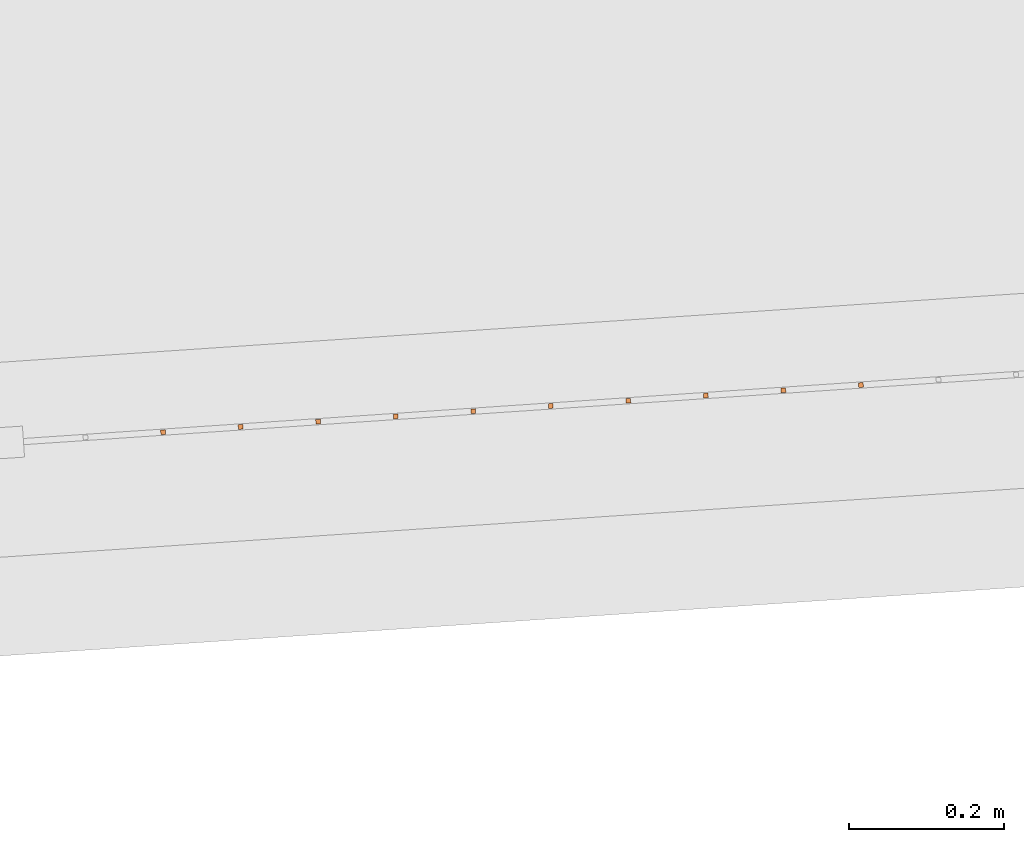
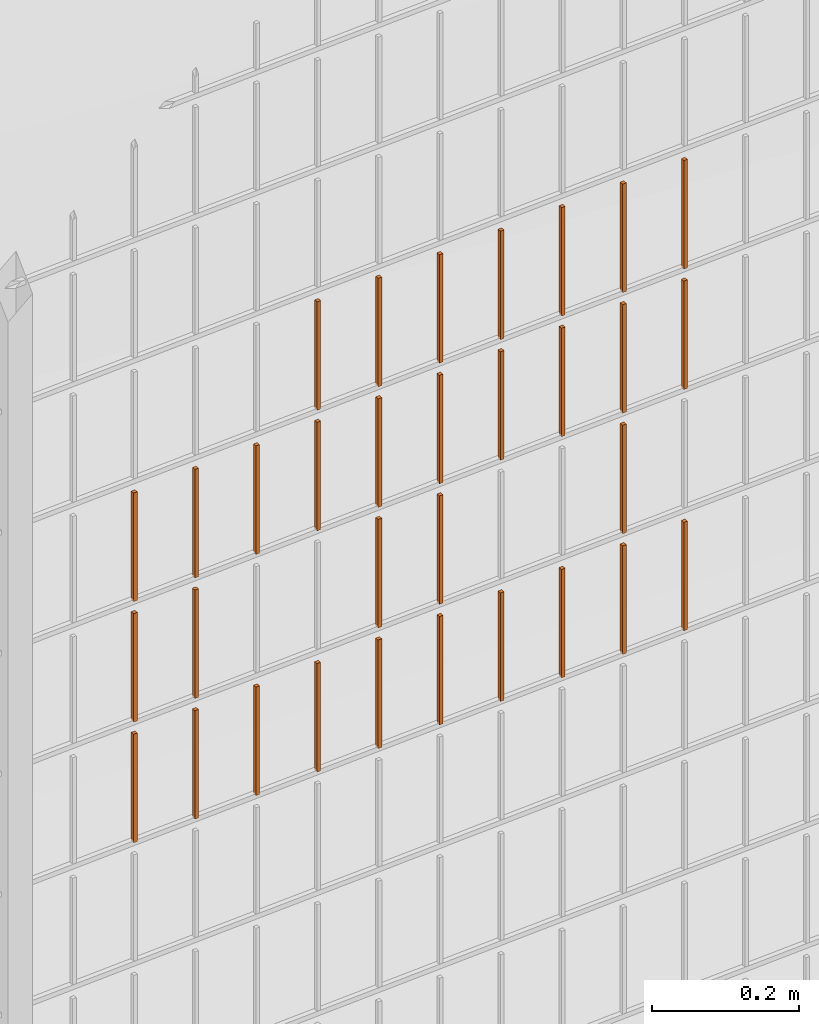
# One storey, part 367 of 1809: 32 proxies, 1 element without a shape of its own.
"""IFC2X3 building model written with IfcOpenShell, lengths in millimetres."""

from ifc_helpers import new_model, entity, si_unit, converted_unit, derived_unit, money_unit, direction, frame, origin_with_axes, place, context, subcontext, project, spatial, faceted_brep, source, transform, mapped, material, type_object, element, aggregate, save


model = new_model("IFC2X3")

# Units and contexts
model_context = context("Model", 3, precision=0.01, world=origin_with_axes(), true_north=direction((0.0, 1.0)))
body_context = subcontext(model_context, "Body", "Model", "MODEL_VIEW")
ifc_project = project(units=[si_unit("LENGTHUNIT", "METRE", prefix="MILLI"), si_unit("AREAUNIT", "SQUARE_METRE"), si_unit("VOLUMEUNIT", "CUBIC_METRE"), converted_unit("PLANEANGLEUNIT", "DEGREE", entity("IfcPlaneAngleMeasure", 0.0174532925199), si_unit("PLANEANGLEUNIT", "RADIAN"), dimensions=[0, 0, 0, 0, 0, 0, 0]), si_unit("SOLIDANGLEUNIT", "STERADIAN"), money_unit("EUR"), converted_unit("TIMEUNIT", "Year", entity("IfcTimeMeasure", 31556926.0), si_unit("TIMEUNIT", "SECOND"), dimensions=[0, 0, 1, 0, 0, 0, 0]), si_unit("MASSUNIT", "GRAM", prefix="KILO"), si_unit("THERMODYNAMICTEMPERATUREUNIT", "DEGREE_CELSIUS"), si_unit("LUMINOUSINTENSITYUNIT", "LUMEN"), si_unit("ENERGYUNIT", "JOULE", prefix="MEGA"), derived_unit("THERMALCONDUCTANCEUNIT", [(si_unit("POWERUNIT", "WATT"), 1), (si_unit("LENGTHUNIT", "METRE"), -1), (si_unit("THERMODYNAMICTEMPERATUREUNIT", "KELVIN"), -1)]), derived_unit("SPECIFICHEATCAPACITYUNIT", [(si_unit("ENERGYUNIT", "JOULE"), 1), (si_unit("MASSUNIT", "GRAM", prefix="KILO"), -1), (si_unit("THERMODYNAMICTEMPERATUREUNIT", "KELVIN"), -1)]), derived_unit("MASSDENSITYUNIT", [(si_unit("MASSUNIT", "GRAM", prefix="KILO"), 1), (si_unit("VOLUMEUNIT", "CUBIC_METRE"), -1)])], contexts=[model_context])

# Site, building, storey
site_placement = place(None, origin_with_axes())
site = spatial("IfcSite", under=ifc_project, at=site_placement, Name="Politse- ja Piirivalveameti ning Päästeameti ühishoone", CompositionType="ELEMENT")
building_placement = place(site_placement, origin_with_axes())
building = spatial("IfcBuilding", under=site, at=building_placement, Name="Politse- ja Piirivalveameti ning Päästeameti ühishoone", CompositionType="ELEMENT")
storey_placement = place(building_placement, origin_with_axes())
storey = spatial("IfcBuildingStorey", under=building, at=storey_placement, Name="Esimene korrus", CompositionType="ELEMENT", Elevation=0.0)

# Proxies
building_element_proxy_type_1 = type_object("IfcBuildingElementProxyType", Name="Railing Type", PredefinedType="NOTDEFINED")
proxy_1_placement = place(storey_placement, frame((89252.001212, -29183.4766571, 203.661247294), z_axis=(0.0, 0.0, 1.0), x_axis=(1.0, 0.0, 0.0)))
proxy_1 = element("IfcBuildingElementProxy", 1, at=proxy_1_placement, inside=storey, type_object=building_element_proxy_type_1, Name="PIIRDEAED")
ifc_material = material(Name="ET-03_Raud")
building_element_proxy_type_2 = type_object("IfcBuildingElementProxyType", Name="IfcBuildingElementProxy", PredefinedType="NOTDEFINED")
shared_shape_1 = source(origin_with_axes(), body_context, "Body", "Brep", [
    faceted_brep([(3.0, 3.0, -0.000752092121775), (-3.0, 3.0, -0.000752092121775), (-3.0, 3.0, 179.99926046), (3.0, 3.0, 179.99926046), (3.0, -3.0, 0.000752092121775), (-3.0, -3.0, 0.000752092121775), (-3.0, -3.0, 180.000764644), (3.0, -3.0, 180.000764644)], [[[0, 1, 2, 3]], [[0, 4, 5, 1]], [[1, 5, 6, 2]], [[3, 2, 6, 7]], [[4, 0, 3, 7]], [[5, 4, 7, 6]]]),
])
proxy_2_placement = place(proxy_1_placement, frame((-21477.7476952, -18748.5155643, 1421.83770137), z_axis=(0.0, 0.0, 1.0), x_axis=(1.0, 0.0, 0.0)))
proxy_2 = element("IfcBuildingElementProxy", 2, at=proxy_2_placement, type_object=building_element_proxy_type_2, material=ifc_material, Name="BALUSTER - 001", context=body_context, shape_type="MappedRepresentation", body=[
    mapped(shared_shape_1, transform((0.0, 0.0, 0.0), x_axis=(-0.0673926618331, 0.997726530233, 0.0), y_axis=(-0.997726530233, -0.0673926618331, 0.0), z_axis=(0.0, 0.0, 1.0))),
])
shared_shape_2 = source(origin_with_axes(), body_context, "Body", "Brep", [
    faceted_brep([(3.0, 3.0, -0.000752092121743), (-3.0, 3.0, -0.000752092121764), (-3.0, 3.0, 179.99926046), (3.0, 3.0, 179.99926046), (3.0, -3.0, 0.000752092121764), (-3.0, -3.0, 0.000752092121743), (-3.0, -3.0, 180.000764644), (3.0, -3.0, 180.000764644)], [[[0, 1, 2, 3]], [[0, 4, 5, 1]], [[1, 5, 6, 2]], [[3, 2, 6, 7]], [[4, 0, 3, 7]], [[5, 4, 7, 6]]]),
])
proxy_3_placement = place(proxy_1_placement, frame((-21777.0656543, -18768.7333629, 1421.76249215), z_axis=(0.0, 0.0, 1.0), x_axis=(1.0, 0.0, 0.0)))
proxy_3 = element("IfcBuildingElementProxy", 3, at=proxy_3_placement, type_object=building_element_proxy_type_2, material=ifc_material, Name="BALUSTER - 001", context=body_context, shape_type="MappedRepresentation", body=[
    mapped(shared_shape_2, transform((0.0, 0.0, 0.0), x_axis=(-0.0673926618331, 0.997726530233, 0.0), y_axis=(-0.997726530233, -0.0673926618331, 0.0), z_axis=(0.0, 0.0, 1.0))),
])
shared_shape_3 = source(origin_with_axes(), body_context, "Body", "Brep", [
    faceted_brep([(3.0, 3.0, -0.000752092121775), (-3.0, 3.0, -0.000752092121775), (-3.0, 3.0, 179.99926046), (3.0, 3.0, 179.99926046), (3.0, -3.0, 0.000752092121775), (-3.0, -3.0, 0.000752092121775), (-3.0, -3.0, 180.000764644), (3.0, -3.0, 180.000764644)], [[[0, 1, 2, 3]], [[0, 4, 5, 1]], [[1, 5, 6, 2]], [[3, 2, 6, 7]], [[4, 0, 3, 7]], [[5, 4, 7, 6]]]),
])
proxy_4_placement = place(proxy_1_placement, frame((-21577.5203482, -18755.2548305, 821.81263163), z_axis=(0.0, 0.0, 1.0), x_axis=(1.0, 0.0, 0.0)))
proxy_4 = element("IfcBuildingElementProxy", 4, at=proxy_4_placement, type_object=building_element_proxy_type_2, material=ifc_material, Name="BALUSTER - 001", context=body_context, shape_type="MappedRepresentation", body=[
    mapped(shared_shape_3, transform((0.0, 0.0, 0.0), x_axis=(-0.0673926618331, 0.997726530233, 0.0), y_axis=(-0.997726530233, -0.0673926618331, 0.0), z_axis=(0.0, 0.0, 1.0))),
])
shared_shape_4 = source(origin_with_axes(), body_context, "Body", "Brep", [
    faceted_brep([(3.0, 3.0, -0.000752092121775), (-3.0, 3.0, -0.000752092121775), (-3.0, 3.0, 179.99926046), (3.0, 3.0, 179.99926046), (3.0, -3.0, 0.000752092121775), (-3.0, -3.0, 0.000752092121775), (-3.0, -3.0, 180.000764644), (3.0, -3.0, 180.000764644)], [[[0, 1, 2, 3]], [[0, 4, 5, 1]], [[1, 5, 6, 2]], [[3, 2, 6, 7]], [[4, 0, 3, 7]], [[5, 4, 7, 6]]]),
])
proxy_5_placement = place(proxy_1_placement, frame((-21377.9750422, -18741.7762981, 821.862771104), z_axis=(0.0, 0.0, 1.0), x_axis=(1.0, 0.0, 0.0)))
proxy_5 = element("IfcBuildingElementProxy", 5, at=proxy_5_placement, type_object=building_element_proxy_type_2, material=ifc_material, Name="BALUSTER - 001", context=body_context, shape_type="MappedRepresentation", body=[
    mapped(shared_shape_4, transform((0.0, 0.0, 0.0), x_axis=(-0.0673926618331, 0.997726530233, 0.0), y_axis=(-0.997726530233, -0.0673926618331, 0.0), z_axis=(0.0, 0.0, 1.0))),
])
shared_shape_5 = source(origin_with_axes(), body_context, "Body", "Brep", [
    faceted_brep([(3.0, 3.0, -0.000752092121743), (-3.0, 3.0, -0.000752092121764), (-3.0, 3.0, 179.99926046), (3.0, 3.0, 179.99926046), (3.0, -3.0, 0.000752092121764), (-3.0, -3.0, 0.000752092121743), (-3.0, -3.0, 180.000764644), (3.0, -3.0, 180.000764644)], [[[0, 1, 2, 3]], [[0, 4, 5, 1]], [[1, 5, 6, 2]], [[3, 2, 6, 7]], [[4, 0, 3, 7]], [[5, 4, 7, 6]]]),
])
proxy_6_placement = place(proxy_1_placement, frame((-21777.0656543, -18768.7333629, 1221.76249215), z_axis=(0.0, 0.0, 1.0), x_axis=(1.0, 0.0, 0.0)))
proxy_6 = element("IfcBuildingElementProxy", 6, at=proxy_6_placement, type_object=building_element_proxy_type_2, material=ifc_material, Name="BALUSTER - 001", context=body_context, shape_type="MappedRepresentation", body=[
    mapped(shared_shape_5, transform((0.0, 0.0, 0.0), x_axis=(-0.0673926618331, 0.997726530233, 0.0), y_axis=(-0.997726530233, -0.0673926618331, 0.0), z_axis=(0.0, 0.0, 1.0))),
])
shared_shape_6 = source(origin_with_axes(), body_context, "Body", "Brep", [
    faceted_brep([(3.0, 3.0, -0.000752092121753), (-3.0, 3.0, -0.000752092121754), (-3.0, 3.0, 179.99926046), (3.0, 3.0, 179.99926046), (3.0, -3.0, 0.000752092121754), (-3.0, -3.0, 0.000752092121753), (-3.0, -3.0, 180.000764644), (3.0, -3.0, 180.000764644)], [[[0, 1, 2, 3]], [[0, 4, 5, 1]], [[1, 5, 6, 2]], [[3, 2, 6, 7]], [[4, 0, 3, 7]], [[5, 4, 7, 6]]]),
])
proxy_7_placement = place(proxy_1_placement, frame((-21777.0656543, -18768.7333629, 821.762492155), z_axis=(0.0, 0.0, 1.0), x_axis=(1.0, 0.0, 0.0)))
proxy_7 = element("IfcBuildingElementProxy", 7, at=proxy_7_placement, type_object=building_element_proxy_type_2, material=ifc_material, Name="BALUSTER - 001", context=body_context, shape_type="MappedRepresentation", body=[
    mapped(shared_shape_6, transform((0.0, 0.0, 0.0), x_axis=(-0.0673926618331, 0.997726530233, 0.0), y_axis=(-0.997726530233, -0.0673926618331, 0.0), z_axis=(0.0, 0.0, 1.0))),
])
shared_shape_7 = source(origin_with_axes(), body_context, "Body", "Brep", [
    faceted_brep([(3.0, 3.0, -0.000752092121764), (-3.0, 3.0, -0.000752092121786), (-3.0, 3.0, 179.99926046), (3.0, 3.0, 179.99926046), (3.0, -3.0, 0.000752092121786), (-3.0, -3.0, 0.000752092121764), (-3.0, -3.0, 180.000764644), (3.0, -3.0, 180.000764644)], [[[0, 1, 2, 3]], [[0, 4, 5, 1]], [[1, 5, 6, 2]], [[3, 2, 6, 7]], [[4, 0, 3, 7]], [[5, 4, 7, 6]]]),
])
proxy_8_placement = place(proxy_1_placement, frame((-21377.9750422, -18741.7762981, 1221.8627711), z_axis=(0.0, 0.0, 1.0), x_axis=(1.0, 0.0, 0.0)))
proxy_8 = element("IfcBuildingElementProxy", 8, at=proxy_8_placement, type_object=building_element_proxy_type_2, material=ifc_material, Name="BALUSTER - 001", context=body_context, shape_type="MappedRepresentation", body=[
    mapped(shared_shape_7, transform((0.0, 0.0, 0.0), x_axis=(-0.0673926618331, 0.997726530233, 0.0), y_axis=(-0.997726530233, -0.0673926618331, 0.0), z_axis=(0.0, 0.0, 1.0))),
])
shared_shape_8 = source(origin_with_axes(), body_context, "Body", "Brep", [
    faceted_brep([(3.0, 3.0, -0.000752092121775), (-3.0, 3.0, -0.000752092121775), (-3.0, 3.0, 179.99926046), (3.0, 3.0, 179.99926046), (3.0, -3.0, 0.000752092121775), (-3.0, -3.0, 0.000752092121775), (-3.0, -3.0, 180.000764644), (3.0, -3.0, 180.000764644)], [[[0, 1, 2, 3]], [[0, 4, 5, 1]], [[1, 5, 6, 2]], [[3, 2, 6, 7]], [[4, 0, 3, 7]], [[5, 4, 7, 6]]]),
])
proxy_9_placement = place(proxy_1_placement, frame((-21178.4297361, -18728.2977658, 821.912910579), z_axis=(0.0, 0.0, 1.0), x_axis=(1.0, 0.0, 0.0)))
proxy_9 = element("IfcBuildingElementProxy", 9, at=proxy_9_placement, type_object=building_element_proxy_type_2, material=ifc_material, Name="BALUSTER - 001", context=body_context, shape_type="MappedRepresentation", body=[
    mapped(shared_shape_8, transform((0.0, 0.0, 0.0), x_axis=(-0.0673926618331, 0.997726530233, 0.0), y_axis=(-0.997726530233, -0.0673926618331, 0.0), z_axis=(0.0, 0.0, 1.0))),
])
proxy_10_placement = place(proxy_1_placement, frame((-21677.2930012, -18761.9940967, 821.787561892), z_axis=(0.0, 0.0, 1.0), x_axis=(1.0, 0.0, 0.0)))
proxy_10 = element("IfcBuildingElementProxy", 10, at=proxy_10_placement, type_object=building_element_proxy_type_2, material=ifc_material, Name="BALUSTER - 001", context=body_context, shape_type="MappedRepresentation", body=[
    mapped(shared_shape_8, transform((0.0, 0.0, 0.0), x_axis=(-0.0673926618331, 0.997726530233, 0.0), y_axis=(-0.997726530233, -0.0673926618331, 0.0), z_axis=(0.0, 0.0, 1.0))),
])
proxy_11_placement = place(proxy_1_placement, frame((-21278.2023891, -18735.037032, 1221.88784084), z_axis=(0.0, 0.0, 1.0), x_axis=(1.0, 0.0, 0.0)))
proxy_11 = element("IfcBuildingElementProxy", 11, at=proxy_11_placement, type_object=building_element_proxy_type_2, material=ifc_material, Name="BALUSTER - 001", context=body_context, shape_type="MappedRepresentation", body=[
    mapped(shared_shape_8, transform((0.0, 0.0, 0.0), x_axis=(-0.0673926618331, 0.997726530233, 0.0), y_axis=(-0.997726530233, -0.0673926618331, 0.0), z_axis=(0.0, 0.0, 1.0))),
])
shared_shape_9 = source(origin_with_axes(), body_context, "Body", "Brep", [
    faceted_brep([(3.0, 3.0, -0.000752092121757), (-3.0, 3.0, -0.000752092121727), (-3.00000000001, 2.99999999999, 179.99926046), (2.99999999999, 2.99999999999, 179.99926046), (3.0, -3.0, 0.000752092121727), (-3.0, -3.0, 0.000752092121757), (-3.00000000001, -3.00000000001, 180.000764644), (2.99999999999, -3.00000000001, 180.000764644)], [[[0, 1, 2, 3]], [[0, 4, 5, 1]], [[1, 5, 6, 2]], [[3, 2, 6, 7]], [[4, 0, 3, 7]], [[5, 4, 7, 6]]]),
])
proxy_12_placement = place(proxy_1_placement, frame((-21577.5203482, -18755.2548305, 1021.81263163), z_axis=(0.0, 0.0, 1.0), x_axis=(1.0, 0.0, 0.0)))
proxy_12 = element("IfcBuildingElementProxy", 12, at=proxy_12_placement, type_object=building_element_proxy_type_2, material=ifc_material, Name="BALUSTER - 001", context=body_context, shape_type="MappedRepresentation", body=[
    mapped(shared_shape_9, transform((0.0, 0.0, 0.0), x_axis=(-0.0673926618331, 0.997726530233, 0.0), y_axis=(-0.997726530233, -0.0673926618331, 0.0), z_axis=(0.0, 0.0, 1.0))),
])
shared_shape_10 = source(origin_with_axes(), body_context, "Body", "Brep", [
    faceted_brep([(3.0, 3.0, -0.000752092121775), (-3.0, 3.0, -0.000752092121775), (-3.0, 3.0, 179.99926046), (3.0, 3.0, 179.99926046), (3.0, -3.0, 0.000752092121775), (-3.0, -3.0, 0.000752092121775), (-3.0, -3.0, 180.000764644), (3.0, -3.0, 180.000764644)], [[[0, 1, 2, 3]], [[0, 4, 5, 1]], [[1, 5, 6, 2]], [[3, 2, 6, 7]], [[4, 0, 3, 7]], [[5, 4, 7, 6]]]),
])
proxy_13_placement = place(proxy_1_placement, frame((-21278.2023891, -18735.037032, 821.887840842), z_axis=(0.0, 0.0, 1.0), x_axis=(1.0, 0.0, 0.0)))
proxy_13 = element("IfcBuildingElementProxy", 13, at=proxy_13_placement, type_object=building_element_proxy_type_2, material=ifc_material, Name="BALUSTER - 001", context=body_context, shape_type="MappedRepresentation", body=[
    mapped(shared_shape_10, transform((0.0, 0.0, 0.0), x_axis=(-0.0673926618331, 0.997726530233, 0.0), y_axis=(-0.997726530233, -0.0673926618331, 0.0), z_axis=(0.0, 0.0, 1.0))),
])
shared_shape_11 = source(origin_with_axes(), body_context, "Body", "Brep", [
    faceted_brep([(3.0, 3.0, -0.000752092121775), (-3.0, 3.0, -0.000752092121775), (-3.0, 3.0, 179.99926046), (3.0, 3.0, 179.99926046), (3.0, -3.0, 0.000752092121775), (-3.0, -3.0, 0.000752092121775), (-3.0, -3.0, 180.000764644), (3.0, -3.0, 180.000764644)], [[[0, 1, 2, 3]], [[0, 4, 5, 1]], [[1, 5, 6, 2]], [[3, 2, 6, 7]], [[4, 0, 3, 7]], [[5, 4, 7, 6]]]),
])
proxy_14_placement = place(proxy_1_placement, frame((-21577.5203482, -18755.2548305, 1221.81263163), z_axis=(0.0, 0.0, 1.0), x_axis=(1.0, 0.0, 0.0)))
proxy_14 = element("IfcBuildingElementProxy", 14, at=proxy_14_placement, type_object=building_element_proxy_type_2, material=ifc_material, Name="BALUSTER - 001", context=body_context, shape_type="MappedRepresentation", body=[
    mapped(shared_shape_11, transform((0.0, 0.0, 0.0), x_axis=(-0.0673926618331, 0.997726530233, 0.0), y_axis=(-0.997726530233, -0.0673926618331, 0.0), z_axis=(0.0, 0.0, 1.0))),
])
shared_shape_12 = source(origin_with_axes(), body_context, "Body", "Brep", [
    faceted_brep([(3.0, 3.0, -0.000752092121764), (-3.0, 3.0, -0.000752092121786), (-3.0, 3.0, 179.99926046), (3.0, 3.0, 179.99926046), (3.0, -3.0, 0.000752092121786), (-3.0, -3.0, 0.000752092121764), (-3.0, -3.0, 180.000764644), (3.0, -3.0, 180.000764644)], [[[0, 1, 2, 3]], [[0, 4, 5, 1]], [[1, 5, 6, 2]], [[3, 2, 6, 7]], [[4, 0, 3, 7]], [[5, 4, 7, 6]]]),
])
proxy_15_placement = place(proxy_1_placement, frame((-21377.9750422, -18741.7762981, 1421.8627711), z_axis=(0.0, 0.0, 1.0), x_axis=(1.0, 0.0, 0.0)))
proxy_15 = element("IfcBuildingElementProxy", 15, at=proxy_15_placement, type_object=building_element_proxy_type_2, material=ifc_material, Name="BALUSTER - 001", context=body_context, shape_type="MappedRepresentation", body=[
    mapped(shared_shape_12, transform((0.0, 0.0, 0.0), x_axis=(-0.0673926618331, 0.997726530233, 0.0), y_axis=(-0.997726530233, -0.0673926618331, 0.0), z_axis=(0.0, 0.0, 1.0))),
])
shared_shape_13 = source(origin_with_axes(), body_context, "Body", "Brep", [
    faceted_brep([(3.0, 3.0, -0.000752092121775), (-3.0, 3.0, -0.000752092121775), (-3.0, 3.0, 179.99926046), (3.0, 3.0, 179.99926046), (3.0, -3.0, 0.000752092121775), (-3.0, -3.0, 0.000752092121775), (-3.0, -3.0, 180.000764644), (3.0, -3.0, 180.000764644)], [[[0, 1, 2, 3]], [[0, 4, 5, 1]], [[1, 5, 6, 2]], [[3, 2, 6, 7]], [[4, 0, 3, 7]], [[5, 4, 7, 6]]]),
])
proxy_16_placement = place(proxy_1_placement, frame((-21577.5203482, -18755.2548305, 1421.81263163), z_axis=(0.0, 0.0, 1.0), x_axis=(1.0, 0.0, 0.0)))
proxy_16 = element("IfcBuildingElementProxy", 16, at=proxy_16_placement, type_object=building_element_proxy_type_2, material=ifc_material, Name="BALUSTER - 001", context=body_context, shape_type="MappedRepresentation", body=[
    mapped(shared_shape_13, transform((0.0, 0.0, 0.0), x_axis=(-0.0673926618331, 0.997726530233, 0.0), y_axis=(-0.997726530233, -0.0673926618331, 0.0), z_axis=(0.0, 0.0, 1.0))),
])
shared_shape_14 = source(origin_with_axes(), body_context, "Body", "Brep", [
    faceted_brep([(3.0, 3.0, -0.000752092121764), (-3.0, 3.0, -0.000752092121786), (-3.0, 3.0, 179.99926046), (3.0, 3.0, 179.99926046), (3.0, -3.0, 0.000752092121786), (-3.0, -3.0, 0.000752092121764), (-3.0, -3.0, 180.000764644), (3.0, -3.0, 180.000764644)], [[[0, 1, 2, 3]], [[0, 4, 5, 1]], [[1, 5, 6, 2]], [[3, 2, 6, 7]], [[4, 0, 3, 7]], [[5, 4, 7, 6]]]),
])
proxy_17_placement = place(proxy_1_placement, frame((-21178.4297361, -18728.2977658, 1221.91291058), z_axis=(0.0, 0.0, 1.0), x_axis=(1.0, 0.0, 0.0)))
proxy_17 = element("IfcBuildingElementProxy", 17, at=proxy_17_placement, type_object=building_element_proxy_type_2, material=ifc_material, Name="BALUSTER - 001", context=body_context, shape_type="MappedRepresentation", body=[
    mapped(shared_shape_14, transform((0.0, 0.0, 0.0), x_axis=(-0.0673926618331, 0.997726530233, 0.0), y_axis=(-0.997726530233, -0.0673926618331, 0.0), z_axis=(0.0, 0.0, 1.0))),
])
proxy_18_placement = place(proxy_1_placement, frame((-21677.2930012, -18761.9940967, 1221.78756189), z_axis=(0.0, 0.0, 1.0), x_axis=(1.0, 0.0, 0.0)))
proxy_18 = element("IfcBuildingElementProxy", 18, at=proxy_18_placement, type_object=building_element_proxy_type_2, material=ifc_material, Name="BALUSTER - 001", context=body_context, shape_type="MappedRepresentation", body=[
    mapped(shared_shape_14, transform((0.0, 0.0, 0.0), x_axis=(-0.0673926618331, 0.997726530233, 0.0), y_axis=(-0.997726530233, -0.0673926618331, 0.0), z_axis=(0.0, 0.0, 1.0))),
])
shared_shape_15 = source(origin_with_axes(), body_context, "Body", "Brep", [
    faceted_brep([(3.0, 3.0, -0.000752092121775), (-3.0, 3.0, -0.000752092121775), (-3.0, 3.0, 179.99926046), (3.0, 3.0, 179.99926046), (3.0, -3.0, 0.000752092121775), (-3.0, -3.0, 0.000752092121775), (-3.0, -3.0, 180.000764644), (3.0, -3.0, 180.000764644)], [[[0, 1, 2, 3]], [[0, 4, 5, 1]], [[1, 5, 6, 2]], [[3, 2, 6, 7]], [[4, 0, 3, 7]], [[5, 4, 7, 6]]]),
])
proxy_19_placement = place(proxy_1_placement, frame((-21477.7476952, -18748.5155643, 1221.83770137), z_axis=(0.0, 0.0, 1.0), x_axis=(1.0, 0.0, 0.0)))
proxy_19 = element("IfcBuildingElementProxy", 19, at=proxy_19_placement, type_object=building_element_proxy_type_2, material=ifc_material, Name="BALUSTER - 001", context=body_context, shape_type="MappedRepresentation", body=[
    mapped(shared_shape_15, transform((0.0, 0.0, 0.0), x_axis=(-0.0673926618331, 0.997726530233, 0.0), y_axis=(-0.997726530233, -0.0673926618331, 0.0), z_axis=(0.0, 0.0, 1.0))),
])
shared_shape_16 = source(origin_with_axes(), body_context, "Body", "Brep", [
    faceted_brep([(3.0, 3.0, -0.000752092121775), (-3.0, 3.0, -0.000752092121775), (-3.0, 3.0, 179.99926046), (3.0, 3.0, 179.99926046), (3.0, -3.0, 0.000752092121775), (-3.0, -3.0, 0.000752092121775), (-3.0, -3.0, 180.000764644), (3.0, -3.0, 180.000764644)], [[[0, 1, 2, 3]], [[0, 4, 5, 1]], [[1, 5, 6, 2]], [[3, 2, 6, 7]], [[4, 0, 3, 7]], [[5, 4, 7, 6]]]),
])
proxy_20_placement = place(proxy_1_placement, frame((-21278.2023891, -18735.037032, 1421.88784084), z_axis=(0.0, 0.0, 1.0), x_axis=(1.0, 0.0, 0.0)))
proxy_20 = element("IfcBuildingElementProxy", 20, at=proxy_20_placement, type_object=building_element_proxy_type_2, material=ifc_material, Name="BALUSTER - 001", context=body_context, shape_type="MappedRepresentation", body=[
    mapped(shared_shape_16, transform((0.0, 0.0, 0.0), x_axis=(-0.0673926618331, 0.997726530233, 0.0), y_axis=(-0.997726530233, -0.0673926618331, 0.0), z_axis=(0.0, 0.0, 1.0))),
])
shared_shape_17 = source(origin_with_axes(), body_context, "Body", "Brep", [
    faceted_brep([(3.0, 3.0, -0.000752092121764), (-3.0, 3.0, -0.000752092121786), (-3.0, 3.0, 179.99926046), (3.0, 3.0, 179.99926046), (3.0, -3.0, 0.000752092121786), (-3.0, -3.0, 0.000752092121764), (-3.0, -3.0, 180.000764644), (3.0, -3.0, 180.000764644)], [[[0, 1, 2, 3]], [[0, 4, 5, 1]], [[1, 5, 6, 2]], [[3, 2, 6, 7]], [[4, 0, 3, 7]], [[5, 4, 7, 6]]]),
])
proxy_21_placement = place(proxy_1_placement, frame((-21178.4297361, -18728.2977658, 1421.91291058), z_axis=(0.0, 0.0, 1.0), x_axis=(1.0, 0.0, 0.0)))
proxy_21 = element("IfcBuildingElementProxy", 21, at=proxy_21_placement, type_object=building_element_proxy_type_2, material=ifc_material, Name="BALUSTER - 001", context=body_context, shape_type="MappedRepresentation", body=[
    mapped(shared_shape_17, transform((0.0, 0.0, 0.0), x_axis=(-0.0673926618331, 0.997726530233, 0.0), y_axis=(-0.997726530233, -0.0673926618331, 0.0), z_axis=(0.0, 0.0, 1.0))),
])
proxy_22_placement = place(proxy_1_placement, frame((-21677.2930012, -18761.9940967, 1421.78756189), z_axis=(0.0, 0.0, 1.0), x_axis=(1.0, 0.0, 0.0)))
proxy_22 = element("IfcBuildingElementProxy", 22, at=proxy_22_placement, type_object=building_element_proxy_type_2, material=ifc_material, Name="BALUSTER - 001", context=body_context, shape_type="MappedRepresentation", body=[
    mapped(shared_shape_17, transform((0.0, 0.0, 0.0), x_axis=(-0.0673926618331, 0.997726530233, 0.0), y_axis=(-0.997726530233, -0.0673926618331, 0.0), z_axis=(0.0, 0.0, 1.0))),
])
shared_shape_18 = source(origin_with_axes(), body_context, "Body", "Brep", [
    faceted_brep([(3.0, 3.0, -0.000752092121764), (-3.0, 3.0, -0.000752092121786), (-3.0, 3.0, 179.99926046), (3.0, 3.0, 179.99926046), (3.0, -3.0, 0.000752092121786), (-3.0, -3.0, 0.000752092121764), (-3.0, -3.0, 180.000764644), (3.0, -3.0, 180.000764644)], [[[0, 1, 2, 3]], [[0, 4, 5, 1]], [[1, 5, 6, 2]], [[3, 2, 6, 7]], [[4, 0, 3, 7]], [[5, 4, 7, 6]]]),
])
proxy_23_placement = place(proxy_1_placement, frame((-21477.7476952, -18748.5155643, 821.837701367), z_axis=(0.0, 0.0, 1.0), x_axis=(1.0, 0.0, 0.0)))
proxy_23 = element("IfcBuildingElementProxy", 23, at=proxy_23_placement, type_object=building_element_proxy_type_2, material=ifc_material, Name="BALUSTER - 001", context=body_context, shape_type="MappedRepresentation", body=[
    mapped(shared_shape_18, transform((0.0, 0.0, 0.0), x_axis=(-0.0673926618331, 0.997726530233, 0.0), y_axis=(-0.997726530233, -0.0673926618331, 0.0), z_axis=(0.0, 0.0, 1.0))),
])
shared_shape_19 = source(origin_with_axes(), body_context, "Body", "Brep", [
    faceted_brep([(3.0, 3.0, -0.000752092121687), (-3.0, 3.0, -0.000752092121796), (-3.00000000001, 2.99999999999, 179.99926046), (2.99999999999, 2.99999999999, 179.99926046), (3.0, -3.0, 0.000752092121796), (-3.0, -3.0, 0.000752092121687), (-3.00000000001, -3.00000000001, 180.000764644), (2.99999999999, -3.00000000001, 180.000764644)], [[[0, 1, 2, 3]], [[0, 4, 5, 1]], [[1, 5, 6, 2]], [[3, 2, 6, 7]], [[4, 0, 3, 7]], [[5, 4, 7, 6]]]),
])
proxy_24_placement = place(proxy_1_placement, frame((-21677.2930012, -18761.9940967, 1021.78756189), z_axis=(0.0, 0.0, 1.0), x_axis=(1.0, 0.0, 0.0)))
proxy_24 = element("IfcBuildingElementProxy", 24, at=proxy_24_placement, type_object=building_element_proxy_type_2, material=ifc_material, Name="BALUSTER - 001", context=body_context, shape_type="MappedRepresentation", body=[
    mapped(shared_shape_19, transform((0.0, 0.0, 0.0), x_axis=(-0.0673926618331, 0.997726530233, 0.0), y_axis=(-0.997726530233, -0.0673926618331, 0.0), z_axis=(0.0, 0.0, 1.0))),
])
shared_shape_20 = source(origin_with_axes(), body_context, "Body", "Brep", [
    faceted_brep([(3.0, 3.0, -0.000752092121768), (-3.0, 3.0, -0.000752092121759), (-3.00000000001, 2.99999999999, 179.99926046), (2.99999999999, 2.99999999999, 179.99926046), (3.0, -3.0, 0.000752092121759), (-3.0, -3.0, 0.000752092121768), (-3.00000000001, -3.00000000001, 180.000764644), (2.99999999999, -3.00000000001, 180.000764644)], [[[0, 1, 2, 3]], [[0, 4, 5, 1]], [[1, 5, 6, 2]], [[3, 2, 6, 7]], [[4, 0, 3, 7]], [[5, 4, 7, 6]]]),
])
proxy_25_placement = place(proxy_1_placement, frame((-21278.2023891, -18735.037032, 1021.88784084), z_axis=(0.0, 0.0, 1.0), x_axis=(1.0, 0.0, 0.0)))
proxy_25 = element("IfcBuildingElementProxy", 25, at=proxy_25_placement, type_object=building_element_proxy_type_2, material=ifc_material, Name="BALUSTER - 001", context=body_context, shape_type="MappedRepresentation", body=[
    mapped(shared_shape_20, transform((0.0, 0.0, 0.0), x_axis=(-0.0673926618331, 0.997726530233, 0.0), y_axis=(-0.997726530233, -0.0673926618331, 0.0), z_axis=(0.0, 0.0, 1.0))),
])
shared_shape_21 = source(origin_with_axes(), body_context, "Body", "Brep", [
    faceted_brep([(3.0, 3.0, -0.000752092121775), (-3.0, 3.0, -0.000752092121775), (-3.0, 3.0, 179.99926046), (3.0, 3.0, 179.99926046), (3.0, -3.0, 0.000752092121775), (-3.0, -3.0, 0.000752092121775), (-3.0, -3.0, 180.000764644), (3.0, -3.0, 180.000764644)], [[[0, 1, 2, 3]], [[0, 4, 5, 1]], [[1, 5, 6, 2]], [[3, 2, 6, 7]], [[4, 0, 3, 7]], [[5, 4, 7, 6]]]),
])
proxy_26_placement = place(proxy_1_placement, frame((-22076.3836133, -18788.9511614, 821.687282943), z_axis=(0.0, 0.0, 1.0), x_axis=(1.0, 0.0, 0.0)))
proxy_26 = element("IfcBuildingElementProxy", 26, at=proxy_26_placement, type_object=building_element_proxy_type_2, material=ifc_material, Name="BALUSTER - 001", context=body_context, shape_type="MappedRepresentation", body=[
    mapped(shared_shape_21, transform((0.0, 0.0, 0.0), x_axis=(-0.0673926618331, 0.997726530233, 0.0), y_axis=(-0.997726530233, -0.0673926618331, 0.0), z_axis=(0.0, 0.0, 1.0))),
])
shared_shape_22 = source(origin_with_axes(), body_context, "Body", "Brep", [
    faceted_brep([(3.0, 3.0, -0.000752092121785), (-3.0, 3.0, -0.000752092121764), (-3.0, 3.0, 179.99926046), (3.0, 3.0, 179.99926046), (3.0, -3.0, 0.000752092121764), (-3.0, -3.0, 0.000752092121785), (-3.0, -3.0, 180.000764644), (3.0, -3.0, 180.000764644)], [[[0, 1, 2, 3]], [[0, 4, 5, 1]], [[1, 5, 6, 2]], [[3, 2, 6, 7]], [[4, 0, 3, 7]], [[5, 4, 7, 6]]]),
])
proxy_27_placement = place(proxy_1_placement, frame((-21876.8383073, -18775.4726291, 821.737422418), z_axis=(0.0, 0.0, 1.0), x_axis=(1.0, 0.0, 0.0)))
proxy_27 = element("IfcBuildingElementProxy", 27, at=proxy_27_placement, type_object=building_element_proxy_type_2, material=ifc_material, Name="BALUSTER - 001", context=body_context, shape_type="MappedRepresentation", body=[
    mapped(shared_shape_22, transform((0.0, 0.0, 0.0), x_axis=(-0.0673926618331, 0.997726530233, 0.0), y_axis=(-0.997726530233, -0.0673926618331, 0.0), z_axis=(0.0, 0.0, 1.0))),
])
shared_shape_23 = source(origin_with_axes(), body_context, "Body", "Brep", [
    faceted_brep([(3.0, 3.0, -0.000752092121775), (-3.0, 3.0, -0.000752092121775), (-3.0, 3.0, 179.99926046), (3.0, 3.0, 179.99926046), (3.0, -3.0, 0.000752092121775), (-3.0, -3.0, 0.000752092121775), (-3.0, -3.0, 180.000764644), (3.0, -3.0, 180.000764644)], [[[0, 1, 2, 3]], [[0, 4, 5, 1]], [[1, 5, 6, 2]], [[3, 2, 6, 7]], [[4, 0, 3, 7]], [[5, 4, 7, 6]]]),
])
proxy_28_placement = place(proxy_1_placement, frame((-21976.6109603, -18782.2118952, 821.71235268), z_axis=(0.0, 0.0, 1.0), x_axis=(1.0, 0.0, 0.0)))
proxy_28 = element("IfcBuildingElementProxy", 28, at=proxy_28_placement, type_object=building_element_proxy_type_2, material=ifc_material, Name="BALUSTER - 001", context=body_context, shape_type="MappedRepresentation", body=[
    mapped(shared_shape_23, transform((0.0, 0.0, 0.0), x_axis=(-0.0673926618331, 0.997726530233, 0.0), y_axis=(-0.997726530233, -0.0673926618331, 0.0), z_axis=(0.0, 0.0, 1.0))),
])
shared_shape_24 = source(origin_with_axes(), body_context, "Body", "Brep", [
    faceted_brep([(3.0, 3.0, -0.000752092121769), (-3.0, 3.0, -0.00075209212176), (-3.00000000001, 3.0, 179.99926046), (2.99999999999, 3.0, 179.99926046), (3.0, -3.0, 0.00075209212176), (-3.0, -3.0, 0.000752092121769), (-3.00000000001, -3.0, 180.000764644), (2.99999999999, -3.0, 180.000764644)], [[[0, 1, 2, 3]], [[0, 4, 5, 1]], [[1, 5, 6, 2]], [[3, 2, 6, 7]], [[4, 0, 3, 7]], [[5, 4, 7, 6]]]),
])
proxy_29_placement = place(proxy_1_placement, frame((-21976.6109603, -18782.2118952, 1021.71235268), z_axis=(0.0, 0.0, 1.0), x_axis=(1.0, 0.0, 0.0)))
proxy_29 = element("IfcBuildingElementProxy", 29, at=proxy_29_placement, type_object=building_element_proxy_type_2, material=ifc_material, Name="BALUSTER - 001", context=body_context, shape_type="MappedRepresentation", body=[
    mapped(shared_shape_24, transform((0.0, 0.0, 0.0), x_axis=(-0.0673926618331, 0.997726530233, 0.0), y_axis=(-0.997726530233, -0.0673926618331, 0.0), z_axis=(0.0, 0.0, 1.0))),
])
shared_shape_25 = source(origin_with_axes(), body_context, "Body", "Brep", [
    faceted_brep([(3.0, 3.0, -0.000752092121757), (-3.0, 3.0, -0.000752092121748), (-3.00000000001, 2.99999999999, 179.99926046), (2.99999999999, 2.99999999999, 179.99926046), (3.0, -3.0, 0.000752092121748), (-3.0, -3.0, 0.000752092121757), (-3.00000000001, -3.00000000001, 180.000764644), (2.99999999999, -3.00000000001, 180.000764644)], [[[0, 1, 2, 3]], [[0, 4, 5, 1]], [[1, 5, 6, 2]], [[3, 2, 6, 7]], [[4, 0, 3, 7]], [[5, 4, 7, 6]]]),
])
proxy_30_placement = place(proxy_1_placement, frame((-22076.3836133, -18788.9511614, 1021.68728294), z_axis=(0.0, 0.0, 1.0), x_axis=(1.0, 0.0, 0.0)))
proxy_30 = element("IfcBuildingElementProxy", 30, at=proxy_30_placement, type_object=building_element_proxy_type_2, material=ifc_material, Name="BALUSTER - 001", context=body_context, shape_type="MappedRepresentation", body=[
    mapped(shared_shape_25, transform((0.0, 0.0, 0.0), x_axis=(-0.0673926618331, 0.997726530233, 0.0), y_axis=(-0.997726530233, -0.0673926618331, 0.0), z_axis=(0.0, 0.0, 1.0))),
])
shared_shape_26 = source(origin_with_axes(), body_context, "Body", "Brep", [
    faceted_brep([(3.0, 3.0, -0.000752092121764), (-3.0, 3.0, -0.000752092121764), (-3.0, 3.0, 179.99926046), (3.0, 3.0, 179.99926046), (3.0, -3.0, 0.000752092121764), (-3.0, -3.0, 0.000752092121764), (-3.0, -3.0, 180.000764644), (3.0, -3.0, 180.000764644)], [[[0, 1, 2, 3]], [[0, 4, 5, 1]], [[1, 5, 6, 2]], [[3, 2, 6, 7]], [[4, 0, 3, 7]], [[5, 4, 7, 6]]]),
])
proxy_31_placement = place(proxy_1_placement, frame((-21876.8383073, -18775.4726291, 1221.73742242), z_axis=(0.0, 0.0, 1.0), x_axis=(1.0, 0.0, 0.0)))
proxy_31 = element("IfcBuildingElementProxy", 31, at=proxy_31_placement, type_object=building_element_proxy_type_2, material=ifc_material, Name="BALUSTER - 001", context=body_context, shape_type="MappedRepresentation", body=[
    mapped(shared_shape_26, transform((0.0, 0.0, 0.0), x_axis=(-0.0673926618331, 0.997726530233, 0.0), y_axis=(-0.997726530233, -0.0673926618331, 0.0), z_axis=(0.0, 0.0, 1.0))),
])
shared_shape_27 = source(origin_with_axes(), body_context, "Body", "Brep", [
    faceted_brep([(3.0, 3.0, -0.000752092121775), (-3.0, 3.0, -0.000752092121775), (-3.0, 3.0, 179.99926046), (3.0, 3.0, 179.99926046), (3.0, -3.0, 0.000752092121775), (-3.0, -3.0, 0.000752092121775), (-3.0, -3.0, 180.000764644), (3.0, -3.0, 180.000764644)], [[[0, 1, 2, 3]], [[0, 4, 5, 1]], [[1, 5, 6, 2]], [[3, 2, 6, 7]], [[4, 0, 3, 7]], [[5, 4, 7, 6]]]),
])
proxy_32_placement = place(proxy_1_placement, frame((-21976.6109603, -18782.2118952, 1221.71235268), z_axis=(0.0, 0.0, 1.0), x_axis=(1.0, 0.0, 0.0)))
proxy_32 = element("IfcBuildingElementProxy", 32, at=proxy_32_placement, type_object=building_element_proxy_type_2, material=ifc_material, Name="BALUSTER - 001", context=body_context, shape_type="MappedRepresentation", body=[
    mapped(shared_shape_27, transform((0.0, 0.0, 0.0), x_axis=(-0.0673926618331, 0.997726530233, 0.0), y_axis=(-0.997726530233, -0.0673926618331, 0.0), z_axis=(0.0, 0.0, 1.0))),
])
shared_shape_28 = source(origin_with_axes(), body_context, "Body", "Brep", [
    faceted_brep([(3.0, 3.0, -0.000752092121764), (-3.0, 3.0, -0.000752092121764), (-3.0, 3.0, 179.99926046), (3.0, 3.0, 179.99926046), (3.0, -3.0, 0.000752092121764), (-3.0, -3.0, 0.000752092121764), (-3.0, -3.0, 180.000764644), (3.0, -3.0, 180.000764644)], [[[0, 1, 2, 3]], [[0, 4, 5, 1]], [[1, 5, 6, 2]], [[3, 2, 6, 7]], [[4, 0, 3, 7]], [[5, 4, 7, 6]]]),
])
proxy_33_placement = place(proxy_1_placement, frame((-22076.3836133, -18788.9511614, 1221.68728294), z_axis=(0.0, 0.0, 1.0), x_axis=(1.0, 0.0, 0.0)))
proxy_33 = element("IfcBuildingElementProxy", 33, at=proxy_33_placement, type_object=building_element_proxy_type_2, material=ifc_material, Name="BALUSTER - 001", context=body_context, shape_type="MappedRepresentation", body=[
    mapped(shared_shape_28, transform((0.0, 0.0, 0.0), x_axis=(-0.0673926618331, 0.997726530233, 0.0), y_axis=(-0.997726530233, -0.0673926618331, 0.0), z_axis=(0.0, 0.0, 1.0))),
])
aggregate(proxy_1, [proxy_9, proxy_13, proxy_5, proxy_23, proxy_4, proxy_10, proxy_7, proxy_27, proxy_28, proxy_26, proxy_25, proxy_12, proxy_24, proxy_29, proxy_30, proxy_17, proxy_11, proxy_8, proxy_19, proxy_14, proxy_18, proxy_6, proxy_31, proxy_32, proxy_33, proxy_21, proxy_20, proxy_15, proxy_2, proxy_16, proxy_22, proxy_3])

save(model, "model.ifc")
